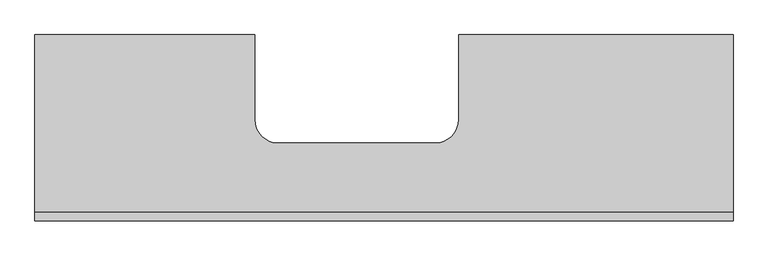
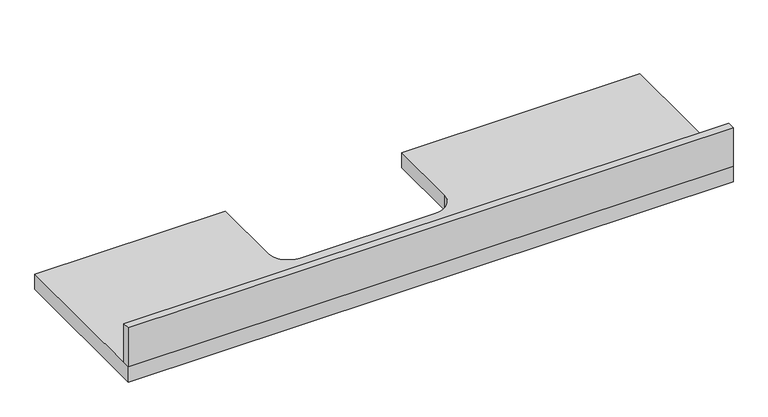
"""IFC4 building model written with IfcOpenShell, lengths in millimetres: furniture geometry, Topo de bancada do banheiro com buraco de pia quadrado : Profundidade 400mm."""

from ifc_helpers import new_model, si_unit, point, frame, frame_2d, origin, place, context, project, spatial, polyline, circle_curve, trimmed, segment, composite_curve, outline, extrude, source, transform, mapped, element, save


def furniture_3dcd5190(model_context):
    return source(origin(), model_context, "Body", "SweptSolid", [
        extrude(outline(polyline([(-1268.7247951, 0.0), (-1268.7247951, 19.05), (228.0605963, 19.05), (228.0605963, 0.0), (-1268.7247951, 0.0)])), frame((0.0, 0.0, 750.0), z_axis=(0.0, 0.0, 1.0), x_axis=(1.0, 0.0, 0.0)), (0.0, 0.0, 1.0), 101.6),
        extrude(outline(composite_curve([segment(polyline([(228.0605963, 0.0), (-1268.7247951, 0.0), (-1268.7247951, 400.0), (-797.7894037, 400.0), (-797.7894037, 218.1)]), True, "CONTINUOUS"), segment(trimmed(circle_curve(frame_2d((-746.9894037, 218.1)), 50.8), [point((-797.7894037, 218.1))], [point((-746.9894037, 167.3))], True, "CARTESIAN"), True, "CONTINUOUS"), segment(polyline([(-746.9894037, 167.3), (-411.2894037, 167.3)]), True, "CONTINUOUS"), segment(trimmed(circle_curve(frame_2d((-411.2894037, 218.1)), 50.8), [point((-411.2894037, 167.3))], [point((-360.4894037, 218.1))], True, "CARTESIAN"), True, "CONTINUOUS"), segment(polyline([(-360.4894037, 218.1), (-360.4894037, 400.0), (228.0605963, 400.0), (228.0605963, 0.0)]), True, "CONTINUOUS")], self_intersect=False)), frame((0.0, 0.0, 710.0), z_axis=(0.0, 0.0, 1.0), x_axis=(1.0, 0.0, 0.0)), (0.0, 0.0, 1.0), 40.0),
    ])


if __name__ == "__main__":
    model = new_model("IFC4")
    model_context = context("Model", 3, world=origin())
    ifc_project = project(units=[si_unit("LENGTHUNIT", "METRE", prefix="MILLI")], contexts=[model_context])
    site = spatial("IfcSite", under=ifc_project)
    building = spatial("IfcBuilding", under=site)
    placement = place(None, origin())
    furniture_shape = furniture_3dcd5190(model_context)
    element("IfcFurniture", 1, ObjectType="Topo de bancada do banheiro com buraco de pia quadrado : Profundidade 400mm", at=placement, inside=building, context=model_context, shape_type="MappedRepresentation", body=[
        mapped(furniture_shape, transform((0.0, 0.0, 0.0), x_axis=(1.0, 0.0, 0.0), y_axis=(0.0, 1.0, 0.0), z_axis=(0.0, 0.0, 1.0))),
    ])
    save(model, "model.ifc")
